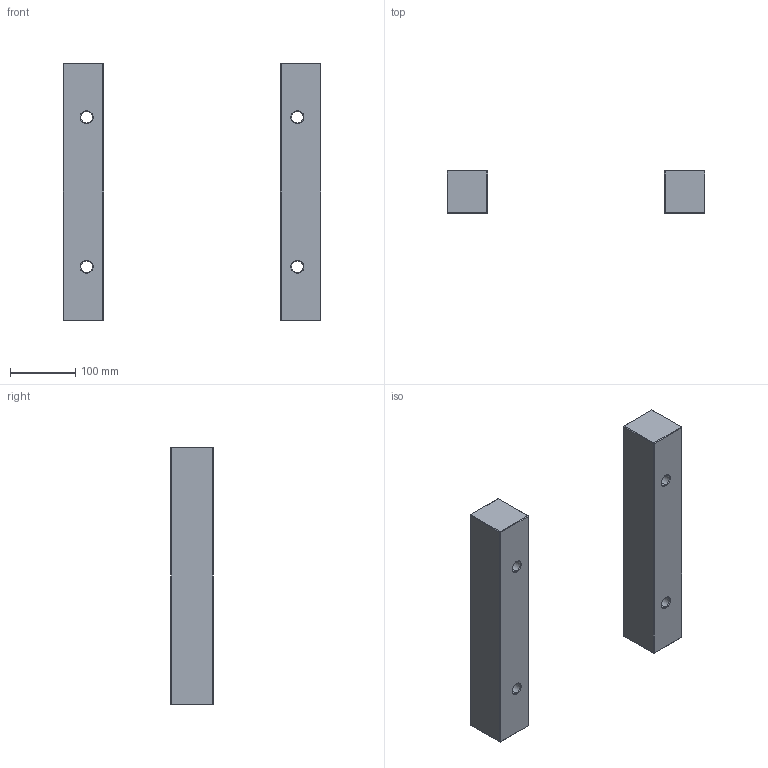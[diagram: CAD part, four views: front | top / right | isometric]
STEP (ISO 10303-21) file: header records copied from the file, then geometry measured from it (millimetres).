
FILE_DESCRIPTION (( 'STEP AP214' ), '1' );
FILE_NAME ('ESP-396X396x66.STEP', '2020-04-14T08:38:52', ( 'August' ), ( '' ), 'SwSTEP 2.0', 'SolidWorks 2018', '' );
FILE_SCHEMA (( 'AUTOMOTIVE_DESIGN' ));
Length unit declared in the file: millimetre
Products named in the file (1): ESP-396X396x66
Bounding box: 396 x 66 x 396 mm (x, y, z)
Volume: 3171364.3 mm3; surface area: 229296.9 mm2
Topology: 2 solids, 2 shells, 76 faces, 152 edges, 80 vertices
Faces by surface type: plane 52, cone 16, cylinder 8
Entity records: 1935 total; most frequent: DIRECTION 338, CARTESIAN_POINT 309, ORIENTED_EDGE 304, EDGE_CURVE 152, LINE 120, VECTOR 120, AXIS2_PLACEMENT_3D 109, EDGE_LOOP 84
